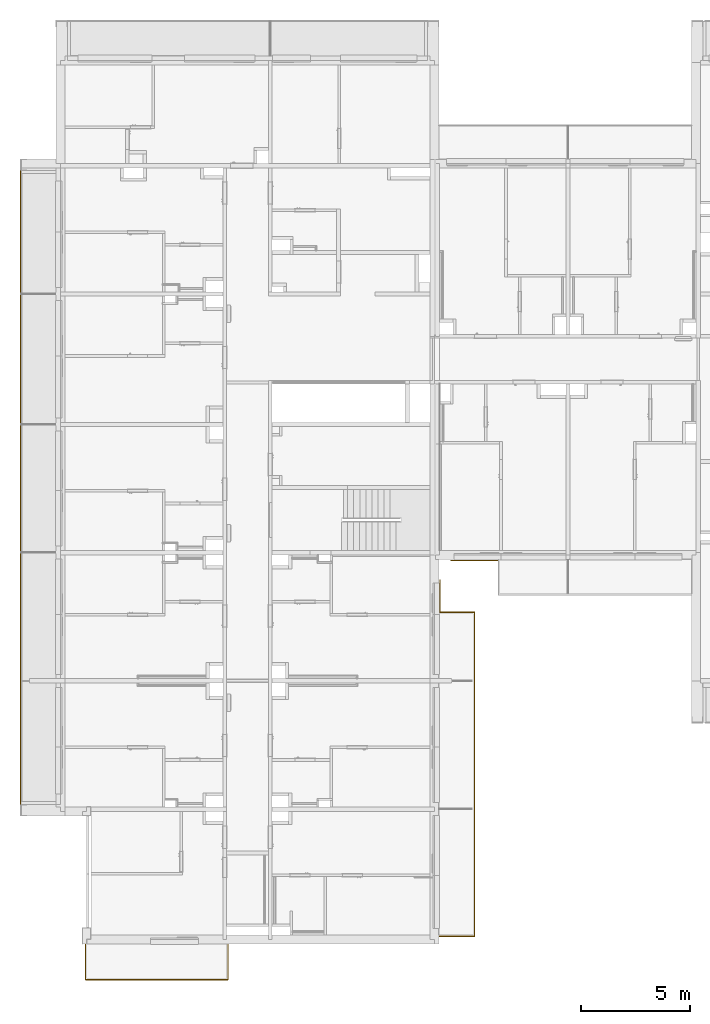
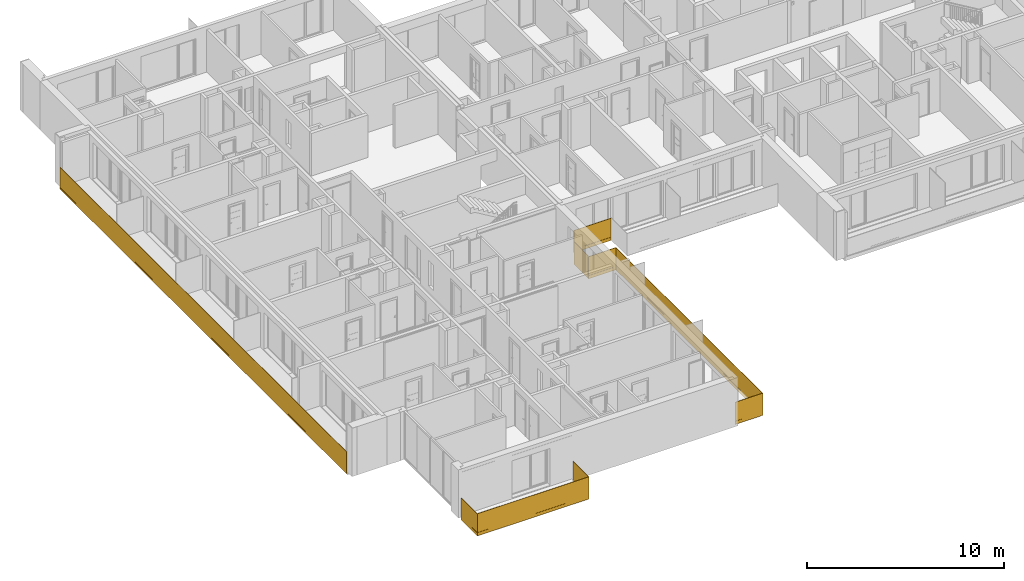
# One storey, part 3 of 66: 5 railings.
"""IFC2X3 building model written with IfcOpenShell, lengths in millimetres."""

from ifc_helpers import new_model, entity, si_unit, converted_unit, derived_unit, money_unit, direction, frame, origin_with_axes, place, context, subcontext, project, spatial, faceted_brep, material, material_list, type_object, element, save


model = new_model("IFC2X3")

# Units and contexts
model_context = context("Model", 3, precision=0.01, world=origin_with_axes(), true_north=direction((0.34421633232, 0.938890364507)))
body_context = subcontext(model_context, "Body", "Model", "MODEL_VIEW")
ifc_project = project(units=[si_unit("LENGTHUNIT", "METRE", prefix="MILLI"), si_unit("AREAUNIT", "SQUARE_METRE"), si_unit("VOLUMEUNIT", "CUBIC_METRE"), converted_unit("PLANEANGLEUNIT", "DEGREE", entity("IfcPlaneAngleMeasure", 0.0174532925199), si_unit("PLANEANGLEUNIT", "RADIAN"), dimensions=[0, 0, 0, 0, 0, 0, 0]), si_unit("SOLIDANGLEUNIT", "STERADIAN"), money_unit("USD"), converted_unit("TIMEUNIT", "Year", entity("IfcTimeMeasure", 31556926.0), si_unit("TIMEUNIT", "SECOND"), dimensions=[0, 0, 1, 0, 0, 0, 0]), si_unit("MASSUNIT", "GRAM", prefix="KILO"), si_unit("THERMODYNAMICTEMPERATUREUNIT", "DEGREE_CELSIUS"), si_unit("LUMINOUSINTENSITYUNIT", "LUMEN"), si_unit("ENERGYUNIT", "JOULE", prefix="MEGA"), derived_unit("THERMALCONDUCTANCEUNIT", [(si_unit("POWERUNIT", "WATT"), 1), (si_unit("LENGTHUNIT", "METRE"), -1), (si_unit("THERMODYNAMICTEMPERATUREUNIT", "KELVIN"), -1)]), derived_unit("SPECIFICHEATCAPACITYUNIT", [(si_unit("ENERGYUNIT", "JOULE"), 1), (si_unit("MASSUNIT", "GRAM", prefix="KILO"), -1), (si_unit("THERMODYNAMICTEMPERATUREUNIT", "KELVIN"), -1)]), derived_unit("MASSDENSITYUNIT", [(si_unit("MASSUNIT", "GRAM", prefix="KILO"), 1), (si_unit("VOLUMEUNIT", "CUBIC_METRE"), -1)])], contexts=[model_context])

# Site, building, storey
site_placement = place(None, origin_with_axes())
site = spatial("IfcSite", under=ifc_project, at=site_placement, Name="USTRONIE MORSKIE", CompositionType="ELEMENT")
building_placement = place(site_placement, origin_with_axes())
building = spatial("IfcBuilding", under=site, at=building_placement, Name="Budynek", CompositionType="ELEMENT")
storey_placement = place(building_placement, frame((0.0, 0.0, 10000.0), z_axis=(0.0, 0.0, 1.0), x_axis=(1.0, 0.0, 0.0)))
storey = spatial("IfcBuildingStorey", under=building, at=storey_placement, Name="PIĘTRO 3", CompositionType="ELEMENT", Elevation=10000.0)

# Railings
ifc_material_1 = material(Name="Szkło struktualne")
ifc_material_2 = material(Name="Profile aluminiowe")
ifc_material_list_1 = material_list([ifc_material_1, ifc_material_2, ifc_material_1, ifc_material_2, ifc_material_1, ifc_material_2])
railing_type = type_object("IfcRailingType", Name="Typ balustrady", PredefinedType="NOTDEFINED")
railing_1_placement = place(storey_placement, frame((367367.92707, 724111.198359, 0.0), z_axis=(0.0, 0.0, 1.0), x_axis=(1.0, 0.0, 0.0)))
element("IfcRailing", 1, at=railing_1_placement, inside=storey, type_object=railing_type, material=ifc_material_list_1, Name="BL1", PredefinedType="NOTDEFINED", context=body_context, shape_type="Brep", body=[
    faceted_brep([(29.9999996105, 59.9999997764, -300.00000039), (29.9999996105, 59.9999997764, 1069.99999972), (1659.99896906, 59.9999997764, 1069.99999972), (1659.99896906, 59.9999997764, -300.00000039), (29.9999996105, 40.0000002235, 1069.99999972), (29.9999996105, 40.0000002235, -300.00000039), (1639.99901128, 40.0000002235, 1069.99999972), (1639.99901128, 40.0000002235, -300.00000039)], [[[0, 1, 2, 3]], [[4, 1, 0, 5]], [[2, 1, 4, 6]], [[3, 2, 6, 7]], [[5, 0, 3, 7]], [[6, 4, 5, 7]]]),
    faceted_brep([(1649.99899054, 35.0, -105.0), (30.0, 35.0, -105.0), (30.0, 35.0, -305.0), (1649.99899054, 35.0, -305.0), (1649.99899054, 40.0, -105.0), (30.0, 40.0, -105.0), (30.0, 40.0, -300.0), (30.0, 59.9999999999, -300.0), (30.0, 59.9999999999, -105.0), (30.0, 64.9999999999, -105.0), (30.0, 64.9999999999, -305.0), (1649.99899054, 64.9999999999, -305.0), (1649.99899054, 64.9999999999, -105.0), (1649.99899054, 59.9999999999, -105.0), (1649.99899054, 59.9999999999, -300.0), (1649.99899054, 40.0, -300.0)], [[[0, 1, 2, 3]], [[1, 0, 4, 5]], [[6, 7, 8, 9, 10, 2, 1, 5]], [[10, 11, 3, 2]], [[11, 12, 13, 14, 15, 4, 0, 3]], [[15, 6, 5, 4]], [[7, 6, 15, 14]], [[8, 7, 14, 13]], [[9, 8, 13, 12]], [[11, 10, 9, 12]]]),
    faceted_brep([(1659.99896943, 60.0000001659, -300.00000039), (1659.99896943, 60.0000001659, 1069.99999972), (1660.03015719, -14869.9993224, 1069.99999972), (1660.03015719, -14869.9993224, -300.00000039), (1639.99901165, 40.000000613, 1069.99999972), (1639.99901165, 40.000000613, -300.00000039), (1640.03011585, -14849.9993229, 1069.99999972), (1640.03011585, -14849.9993229, -300.00000039)], [[[0, 1, 2, 3]], [[4, 1, 0, 5]], [[2, 1, 4, 6]], [[3, 2, 6, 7]], [[5, 0, 3, 7]], [[6, 4, 5, 7]]]),
    faceted_brep([(1635.03013652, -14859.9993537, -105.0), (1634.99899054, 49.9999686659, -105.0), (1634.99899054, 49.9999686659, -305.0), (1635.03013652, -14859.9993537, -305.0), (1640.03013652, -14859.9993433, -105.0), (1639.99899054, 49.9999791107, -105.0), (1639.99899054, 49.9999791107, -300.0), (1659.99899054, 50.0000208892, -300.0), (1659.99899054, 50.0000208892, -105.0), (1664.99899054, 50.000031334, -105.0), (1664.99899054, 50.000031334, -305.0), (1665.03013652, -14859.9992911, -305.0), (1665.03013652, -14859.9992911, -105.0), (1660.03013652, -14859.9993015, -105.0), (1660.03013652, -14859.9993015, -300.0), (1640.03013652, -14859.9993433, -300.0)], [[[0, 1, 2, 3]], [[1, 0, 4, 5]], [[6, 7, 8, 9, 10, 2, 1, 5]], [[10, 11, 3, 2]], [[11, 12, 13, 14, 15, 4, 0, 3]], [[15, 6, 5, 4]], [[7, 6, 15, 14]], [[8, 7, 14, 13]], [[9, 8, 13, 12]], [[11, 10, 9, 12]]]),
    faceted_brep([(1660.03015757, -14869.9993222, -300.00000039), (1660.03015757, -14869.9993222, 1069.99999972), (30.0328478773, -14869.9993222, 1069.99999972), (30.0328478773, -14869.9993222, -300.00000039), (1640.03011624, -14849.9993226, 1069.99999972), (1640.03011624, -14849.9993226, -300.00000039), (30.0328478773, -14849.9993226, 1069.99999972), (30.0328478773, -14849.9993226, -300.00000039)], [[[0, 1, 2, 3]], [[4, 1, 0, 5]], [[2, 1, 4, 6]], [[3, 2, 6, 7]], [[5, 0, 3, 7]], [[6, 4, 5, 7]]]),
    faceted_brep([(30.0328479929, -14844.9993224, -105.0), (1650.03013652, -14844.9993224, -105.0), (1650.03013652, -14844.9993224, -305.0), (30.0328479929, -14844.9993224, -305.0), (30.0328479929, -14849.9993224, -105.0), (1650.03013652, -14849.9993224, -105.0), (1650.03013652, -14849.9993224, -300.0), (1650.03013652, -14869.9993224, -300.0), (1650.03013652, -14869.9993224, -105.0), (1650.03013652, -14874.9993224, -105.0), (1650.03013652, -14874.9993224, -305.0), (30.0328479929, -14874.9993224, -305.0), (30.0328479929, -14874.9993224, -105.0), (30.0328479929, -14869.9993224, -105.0), (30.0328479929, -14869.9993224, -300.0), (30.0328479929, -14849.9993224, -300.0)], [[[0, 1, 2, 3]], [[1, 0, 4, 5]], [[6, 7, 8, 9, 10, 2, 1, 5]], [[10, 11, 3, 2]], [[11, 12, 13, 14, 15, 4, 0, 3]], [[15, 6, 5, 4]], [[7, 6, 15, 14]], [[8, 7, 14, 13]], [[9, 8, 13, 12]], [[11, 10, 9, 12]]]),
])
railing_2_placement = place(storey_placement, frame((357617.920919, 708891.199036, 0.0), z_axis=(0.0, 0.0, 1.0), x_axis=(1.0, 0.0, 0.0)))
element("IfcRailing", 2, at=railing_2_placement, inside=storey, type_object=railing_type, material=ifc_material_list_1, Name="BL1", PredefinedType="NOTDEFINED", context=body_context, shape_type="Brep", body=[
    faceted_brep([(59.9999997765, -19.9999996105, -300.00000039), (59.9999997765, -19.9999996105, 1069.99999972), (59.9999997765, -1649.9999995, 1069.99999972), (59.9999997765, -1649.9999995, -300.00000039), (40.0000002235, -19.9999996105, 1069.99999972), (40.0000002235, -19.9999996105, -300.00000039), (40.0000002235, -1629.99999995, 1069.99999972), (40.0000002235, -1629.99999995, -300.00000039)], [[[0, 1, 2, 3]], [[4, 1, 0, 5]], [[2, 1, 4, 6]], [[3, 2, 6, 7]], [[5, 0, 3, 7]], [[6, 4, 5, 7]]]),
    faceted_brep([(35.0, -1640.0, -105.0), (35.0, -20.0, -105.0), (35.0, -20.0, -305.0), (35.0, -1640.0, -305.0), (40.0, -1640.0, -105.0), (40.0, -20.0, -105.0), (40.0, -20.0, -300.0), (60.0, -20.0, -300.0), (60.0, -20.0, -105.0), (65.0, -20.0, -105.0), (65.0, -20.0, -305.0), (65.0, -1640.0, -305.0), (65.0, -1640.0, -105.0), (60.0, -1640.0, -105.0), (60.0, -1640.0, -300.0), (40.0, -1640.0, -300.0)], [[[0, 1, 2, 3]], [[1, 0, 4, 5]], [[6, 7, 8, 9, 10, 2, 1, 5]], [[10, 11, 3, 2]], [[11, 12, 13, 14, 15, 4, 0, 3]], [[15, 6, 5, 4]], [[7, 6, 15, 14]], [[8, 7, 14, 13]], [[9, 8, 13, 12]], [[11, 10, 9, 12]]]),
    faceted_brep([(60.000000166, -1649.99999978, -300.00000039), (60.000000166, -1649.99999978, 1069.99999972), (-6510.00000013, -1649.99999978, 1069.99999972), (-6510.00000013, -1649.99999978, -300.00000039), (40.000000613, -1630.00000022, 1069.99999972), (40.000000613, -1630.00000022, -300.00000039), (-6490.00000058, -1630.00000022, 1069.99999972), (-6490.00000058, -1630.00000022, -300.00000039)], [[[0, 1, 2, 3]], [[4, 1, 0, 5]], [[2, 1, 4, 6]], [[3, 2, 6, 7]], [[5, 0, 3, 7]], [[6, 4, 5, 7]]]),
    faceted_brep([(-6500.0, -1625.0, -105.0), (50.0, -1625.0, -105.0), (50.0, -1625.0, -305.0), (-6500.0, -1625.0, -305.0), (-6500.0, -1630.0, -105.0), (50.0, -1630.0, -105.0), (50.0, -1630.0, -300.0), (50.0, -1650.0, -300.0), (50.0, -1650.0, -105.0), (50.0, -1655.0, -105.0), (50.0, -1655.0, -305.0), (-6500.0, -1655.0, -305.0), (-6500.0, -1655.0, -105.0), (-6500.0, -1650.0, -105.0), (-6500.0, -1650.0, -300.0), (-6500.0, -1630.0, -300.0)], [[[0, 1, 2, 3]], [[1, 0, 4, 5]], [[6, 7, 8, 9, 10, 2, 1, 5]], [[10, 11, 3, 2]], [[11, 12, 13, 14, 15, 4, 0, 3]], [[15, 6, 5, 4]], [[7, 6, 15, 14]], [[8, 7, 14, 13]], [[9, 8, 13, 12]], [[11, 10, 9, 12]]]),
    faceted_brep([(-6509.99999978, -1650.00000017, -300.00000039), (-6509.99999978, -1650.00000017, 1069.99999972), (-6509.99999978, -19.9993222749, 1069.99999972), (-6509.99999978, -19.9993222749, -300.00000039), (-6490.00000022, -1630.00000061, 1069.99999972), (-6490.00000022, -1630.00000061, -300.00000039), (-6490.00000022, -19.9993222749, 1069.99999972), (-6490.00000022, -19.9993222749, -300.00000039)], [[[0, 1, 2, 3]], [[4, 1, 0, 5]], [[2, 1, 4, 6]], [[3, 2, 6, 7]], [[5, 0, 3, 7]], [[6, 4, 5, 7]]]),
    faceted_brep([(-6485.0, -19.9993224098, -105.0), (-6485.0, -1640.0, -105.0), (-6485.0, -1640.0, -305.0), (-6485.0, -19.9993224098, -305.0), (-6490.0, -19.9993224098, -105.0), (-6490.0, -1640.0, -105.0), (-6490.0, -1640.0, -300.0), (-6510.0, -1640.0, -300.0), (-6510.0, -1640.0, -105.0), (-6515.0, -1640.0, -105.0), (-6515.0, -1640.0, -305.0), (-6515.0, -19.9993224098, -305.0), (-6515.0, -19.9993224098, -105.0), (-6510.0, -19.9993224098, -105.0), (-6510.0, -19.9993224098, -300.0), (-6490.0, -19.9993224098, -300.0)], [[[0, 1, 2, 3]], [[1, 0, 4, 5]], [[6, 7, 8, 9, 10, 2, 1, 5]], [[10, 11, 3, 2]], [[11, 12, 13, 14, 15, 4, 0, 3]], [[15, 6, 5, 4]], [[7, 6, 15, 14]], [[8, 7, 14, 13]], [[9, 8, 13, 12]], [[11, 10, 9, 12]]]),
])
ifc_material_list_2 = material_list([ifc_material_1, ifc_material_2])
railing_3_placement = place(storey_placement, frame((349917.920919, 745301.199036, -200.0), z_axis=(0.0, 0.0, 1.0), x_axis=(-1.0, 0.0, 0.0)))
element("IfcRailing", 3, at=railing_3_placement, inside=storey, type_object=railing_type, material=ifc_material_list_2, Name="BL1", PredefinedType="NOTDEFINED", context=body_context, shape_type="Brep", body=[
    faceted_brep([(1790.0, 29970.0, -100.0), (1790.0, 830.0, -100.0), (1790.0, 830.0, 1250.0), (1790.0, 29970.0, 1250.0), (1810.0, 830.0, -100.0), (1810.0, 29970.0, -100.0), (1810.0, 830.0, 1250.0), (1810.0, 29970.0, 1250.0)], [[[0, 1, 2, 3]], [[4, 1, 0, 5]], [[6, 2, 1, 4]], [[3, 2, 6, 7]], [[0, 3, 7, 5]], [[6, 4, 5, 7]]]),
    faceted_brep([(1815.0, 29970.0, -5.0), (1815.0, 830.0, -5.0), (1815.0, 830.0, -105.0), (1815.0, 29970.0, -105.0), (1810.0, 29970.0, -5.0), (1810.0, 830.0, -5.0), (1810.0, 830.0, -100.0), (1790.0, 830.0, -100.0), (1790.0, 830.0, -5.0), (1785.0, 830.0, -5.0), (1785.0, 830.0, -105.0), (1785.0, 29970.0, -105.0), (1785.0, 29970.0, -5.0), (1790.0, 29970.0, -5.0), (1790.0, 29970.0, -100.0), (1810.0, 29970.0, -100.0)], [[[0, 1, 2, 3]], [[1, 0, 4, 5]], [[6, 7, 8, 9, 10, 2, 1, 5]], [[10, 11, 3, 2]], [[11, 12, 13, 14, 15, 4, 0, 3]], [[15, 6, 5, 4]], [[7, 6, 15, 14]], [[8, 7, 14, 13]], [[9, 8, 13, 12]], [[11, 10, 9, 12]]]),
])
railing_4_placement = place(storey_placement, frame((367377.958165, 724111.198359, 0.0), z_axis=(0.0, 0.0, 1.0), x_axis=(-1.0, 0.0, 0.0)))
element("IfcRailing", 4, at=railing_4_placement, inside=storey, type_object=railing_type, material=ifc_material_list_2, Name="BL1", PredefinedType="NOTDEFINED", context=body_context, shape_type="Brep", body=[
    faceted_brep([(-40.0, -1550.0, -300.0), (-40.0, -80.0, -300.0), (-40.0, -80.0, 1070.0), (-40.0, -1550.0, 1070.0), (-60.0, -80.0, -300.0), (-60.0, -1550.0, -300.0), (-60.0, -80.0, 1070.0), (-60.0, -1550.0, 1070.0)], [[[0, 1, 2, 3]], [[4, 1, 0, 5]], [[6, 2, 1, 4]], [[3, 2, 6, 7]], [[0, 3, 7, 5]], [[6, 4, 5, 7]]]),
    faceted_brep([(-65.0, -1550.0, -105.0), (-65.0, -80.0, -105.0), (-65.0, -80.0, -305.0), (-65.0, -1550.0, -305.0), (-60.0, -1550.0, -105.0), (-60.0, -80.0, -105.0), (-60.0, -80.0, -300.0), (-40.0, -80.0, -300.0), (-40.0, -80.0, -105.0), (-35.0, -80.0, -105.0), (-35.0, -80.0, -305.0), (-35.0, -1550.0, -305.0), (-35.0, -1550.0, -105.0), (-40.0, -1550.0, -105.0), (-40.0, -1550.0, -300.0), (-60.0, -1550.0, -300.0)], [[[0, 1, 2, 3]], [[1, 0, 4, 5]], [[6, 7, 8, 9, 10, 2, 1, 5]], [[10, 11, 3, 2]], [[11, 12, 13, 14, 15, 4, 0, 3]], [[15, 6, 5, 4]], [[7, 6, 15, 14]], [[8, 7, 14, 13]], [[9, 8, 13, 12]], [[11, 10, 9, 12]]]),
])
railing_5_placement = place(storey_placement, frame((370177.928052, 726591.199036, 0.0), z_axis=(0.0, 0.0, 1.0), x_axis=(-1.0, 0.0, 0.0)))
element("IfcRailing", 5, at=railing_5_placement, inside=storey, type_object=railing_type, material=ifc_material_list_2, Name="BL1", PredefinedType="NOTDEFINED", context=body_context, shape_type="Brep", body=[
    faceted_brep([(2259.98778246, 59.9999999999, -300.0), (80.0, 59.9999999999, -300.0), (80.0, 59.9999999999, 1070.0), (2259.98778246, 59.9999999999, 1070.0), (80.0, 40.0, -300.0), (2259.98778246, 40.0, -300.0), (80.0, 40.0, 1070.0), (2259.98778246, 40.0, 1070.0)], [[[0, 1, 2, 3]], [[4, 1, 0, 5]], [[6, 2, 1, 4]], [[3, 2, 6, 7]], [[0, 3, 7, 5]], [[6, 4, 5, 7]]]),
    faceted_brep([(80.0, 35.0, -305.0), (2259.98778246, 35.0, -305.0), (2259.98778246, 35.0, -105.0), (80.0, 35.0, -105.0), (80.0, 64.9999999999, -305.0), (2259.98778246, 64.9999999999, -305.0), (2259.98778246, 64.9999999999, -105.0), (2259.98778246, 59.9999999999, -105.0), (2259.98778246, 59.9999999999, -300.0), (2259.98778246, 40.0, -300.0), (2259.98778246, 40.0, -105.0), (80.0, 40.0, -105.0), (80.0, 59.9999999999, -300.0), (80.0, 59.9999999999, -105.0), (80.0, 64.9999999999, -105.0), (80.0, 40.0, -300.0)], [[[0, 1, 2, 3]], [[4, 5, 1, 0]], [[5, 6, 7, 8, 9, 10, 2, 1]], [[3, 2, 10, 11]], [[12, 13, 14, 4, 0, 3, 11, 15]], [[5, 4, 14, 6]], [[14, 13, 7, 6]], [[13, 12, 8, 7]], [[12, 15, 9, 8]], [[9, 15, 11, 10]]]),
])

save(model, "model.ifc")
